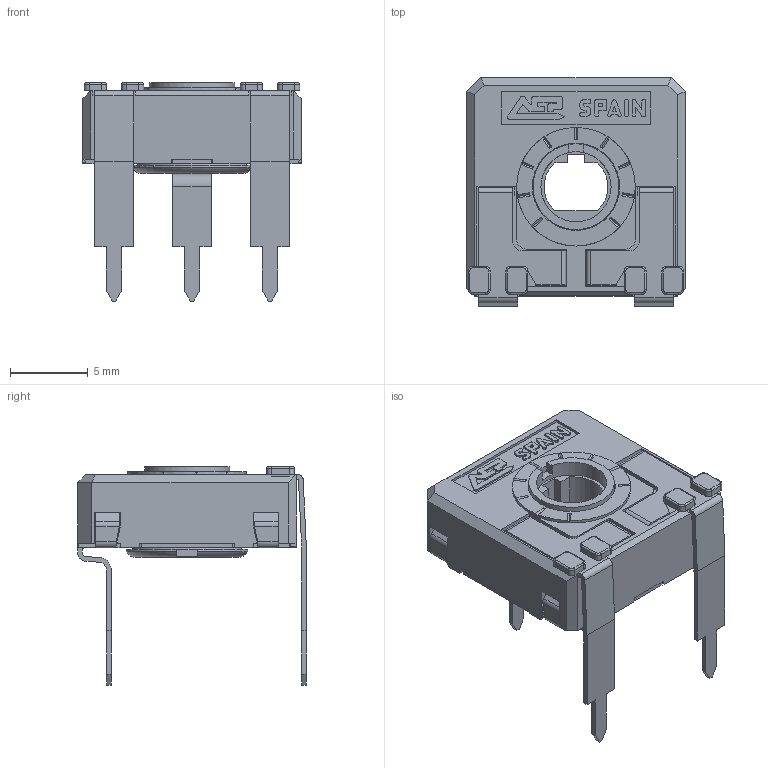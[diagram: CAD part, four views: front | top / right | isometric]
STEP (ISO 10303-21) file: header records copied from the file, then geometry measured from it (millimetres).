
FILE_DESCRIPTION(/* description */ (''),/* implementation_level */ '2;1');
FILE_NAME(/* name */ '\\SERVERACP\intercambio\Ignacio Santa Cecilia\Nueva WEB 2025\CA14 - CE14\CA14TVL12,5.stp',/* time_stamp */ '2025-06-13T11:24:25+02:00',/* author */ ('CEM'),/* organization */ (''),/* preprocessor_version */ 'ST-DEVELOPER v17',/* originating_system */ 'Autodesk Inventor 2018',/* authorisation */ '');
FILE_SCHEMA (('AUTOMOTIVE_DESIGN { 1 0 10303 214 3 1 1 }'));
Length unit declared in the file: millimetre
Products named in the file (1): CARCASA CA14 PGA
Bounding box: 14 x 14.65 x 14 mm (x, y, z)
Volume: 541.2 mm3; surface area: 1551.4 mm2
Topology: 1 solids, 1 shells, 686 faces, 1944 edges, 1254 vertices
Faces by surface type: plane 506, cylinder 143, torus 23, bspline 8, cone 6
Full cylindrical faces by diameter (mm): 4.5 x1, 5.5 x1, 5.6 x1, 5.752 x1, 6.8 x1, 7.6 x1
Entity records: 22472 total; most frequent: CARTESIAN_POINT 4182, ORIENTED_EDGE 3888, DIRECTION 3629, EDGE_CURVE 1944, LINE 1527, VECTOR 1527, VERTEX_POINT 1254, AXIS2_PLACEMENT_3D 1051
